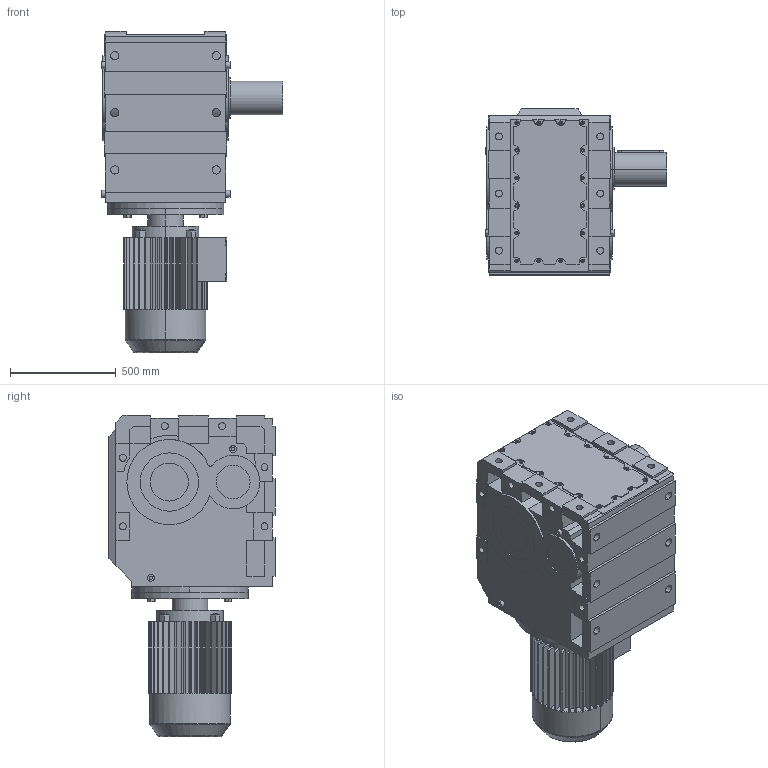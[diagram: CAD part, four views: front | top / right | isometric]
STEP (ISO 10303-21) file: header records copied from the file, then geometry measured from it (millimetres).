
FILE_DESCRIPTION(('Open CASCADE Model'),'2;1');
FILE_NAME('Open CASCADE Shape Model','2021-05-13T14:50:34',('Author'),( 'Open CASCADE'),'Open CASCADE STEP processor 6.3','Open CASCADE 6.3' ,'Unknown');
FILE_SCHEMA(('AUTOMOTIVE_DESIGN_CC2 { 1 2 10303 214 -1 1 5 4 }'));
Length unit declared in the file: millimetre
Products named in the file (4): 1_K167DV225-A; K167‵187_167.step; 萇儂_550-DV225-682-838-394-289.step; す瑩妗陑粣K_167.step
Assembly tree (3 placements, depth 2):
  1_K167DV225-A
    K167‵187_167.step
    萇儂_550-DV225-682-838-394-289.step
    す瑩妗陑粣K_167.step
Bounding box: 860 x 786 x 1519 mm (x, y, z)
Volume: 417704967.4 mm3; surface area: 6922905.1 mm2
Topology: 3 solids, 3 shells, 917 faces, 2376 edges, 1546 vertices
Faces by surface type: plane 617, cylinder 288, cone 8, torus 4
Entity records: 59532 total; most frequent: CARTESIAN_POINT 14021, DIRECTION 7943, ORIENTED_EDGE 4748, PCURVE 4748, DEFINITIONAL_REPRESENTATION 4748, LINE 4231, VECTOR 4231, EDGE_CURVE 2374
